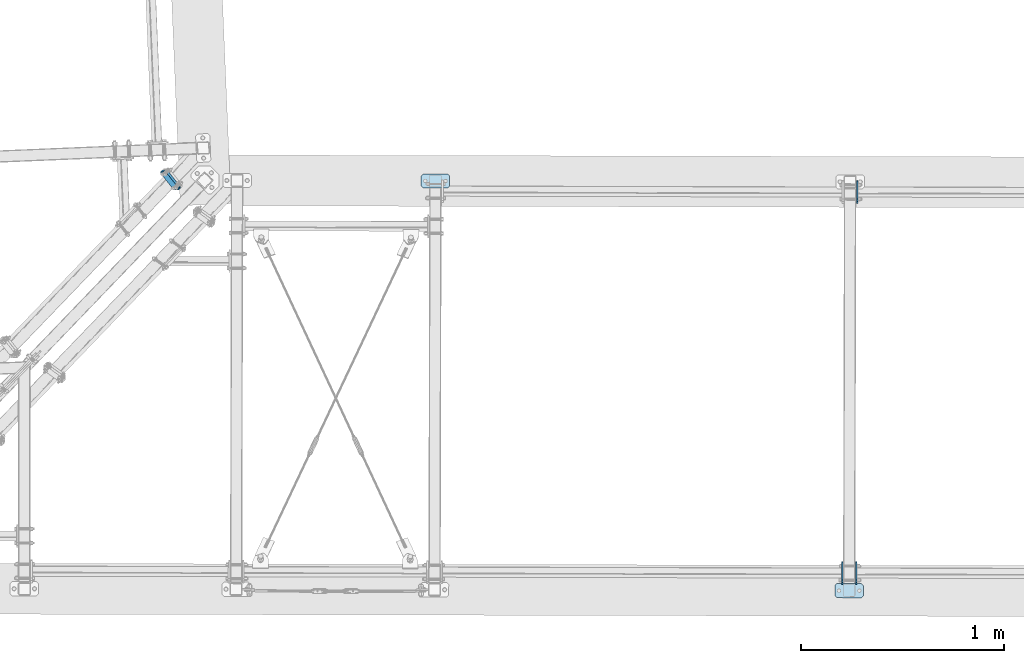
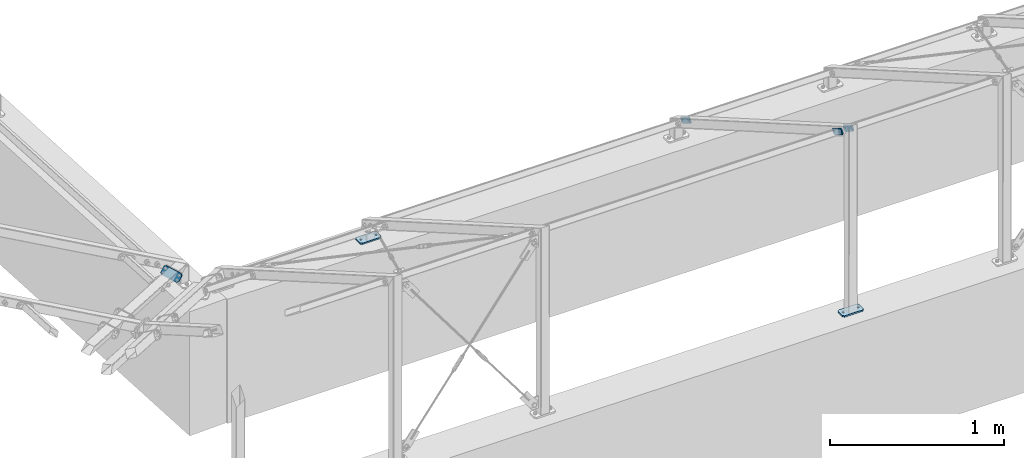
# One storey, part 32 of 288: 6 plates, 38 openings.
"""IFC2X3 building model written with IfcOpenShell, lengths in millimetres."""

from ifc_helpers import new_model, entity, si_unit, converted_unit, point, frame, frame_2d, origin, origin_with_axes, origin_2d_with_axis, place, context, project, spatial, polyline, circle_curve, line_curve, trimmed, segment, composite_curve, circle, outline, extrude, material, layer, layer_set, element, save


model = new_model("IFC2X3")

# Units and contexts
model_context = context("Model", 3, precision=1e-09, world=origin_with_axes())
ifc_project = project(units=[si_unit("LENGTHUNIT", "METRE", prefix="MILLI"), si_unit("AREAUNIT", "SQUARE_METRE"), si_unit("VOLUMEUNIT", "CUBIC_METRE"), converted_unit("PLANEANGLEUNIT", "DEGREE", entity("IfcPlaneAngleMeasure", 0.01745329), si_unit("PLANEANGLEUNIT", "RADIAN"), dimensions=[0, 0, 0, 0, 0, 0, 0])], contexts=[model_context])

# Site, building, storey
site_placement = place(None, origin_with_axes())
site = spatial("IfcSite", under=ifc_project, at=site_placement, Name="Remont ?wietlik?w nad MC w NCPP w Opolu", CompositionType="ELEMENT")
building_placement = place(site_placement, origin_with_axes())
building = spatial("IfcBuilding", under=site, at=building_placement, Name="Konstrukcja 1", CompositionType="ELEMENT")
storey_placement = place(building_placement, origin_with_axes())
storey = spatial("IfcBuildingStorey", under=building, at=storey_placement, Name="Default Storey", CompositionType="ELEMENT", Elevation=0.0)

# Plate, openings
ifc_material = material(Name="S235")
ifc_layer_1 = layer(ifc_material, 8.0)
ifc_layer_set_1 = layer_set([ifc_layer_1], Name="S235")
plate_1_placement = place(None, frame((5016.422168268, -111.641533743, 1232.672531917), z_axis=(0.999997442, -0.002261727, -1.05e-07), x_axis=(0.00195866, 0.866023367, -0.499999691)))
plate_1 = element("IfcPlate", 1, at=plate_1_placement, inside=storey, material=ifc_layer_set_1, Name="-", ObjectType="-", context=model_context, shape_type="SweptSolid", body=[
    extrude(outline(polyline([(0.0, 0.0), (120.0, 0.0), (120.0, 40.0), (0.0, 40.0), (0.0, 0.0)])), origin_with_axes(), (0.0, 0.0, -1.0), 8.0),
])
opening_1_placement = place(plate_1_placement, frame((0.0, 40.0, 0.01), z_axis=(0.0, 0.0, 1.0), x_axis=(0.0, -1.0, 0.0)))
element("IfcOpeningElement", 2, at=opening_1_placement, cuts=plate_1, ObjectType="Opening", context=model_context, shape_type="SweptSolid", body=[
    extrude(outline(composite_curve([segment(trimmed(line_curve((0.0, 0.0), (1.0, 0.0), 10.0), [point((0.0, 0.0))], [point((10.0, 0.0))], True, "CARTESIAN"), True, "CONTINUOUS"), segment(trimmed(circle_curve(frame_2d((10.0, 10.0), x_axis=(-1.0, 0.0)), 10.0), [point((10.0, 0.0))], [point((0.0, 10.0))], False, "CARTESIAN"), True, "CONTINUOUS"), segment(trimmed(line_curve((0.0, 10.0), (0.0, -1.0), 10.0), [point((0.0, 10.0))], [point((0.0, 0.0))], True, "CARTESIAN"), True, "CONTINUOUS")], self_intersect=False)), origin(), (0.0, 0.0, -1.0), 8.02),
])
opening_2_placement = place(plate_1_placement, frame((0.0, 0.0, 0.01), z_axis=(0.0, 0.0, 1.0), x_axis=(1.0, 0.0, 0.0)))
element("IfcOpeningElement", 3, at=opening_2_placement, cuts=plate_1, ObjectType="Opening", context=model_context, shape_type="SweptSolid", body=[
    extrude(outline(composite_curve([segment(trimmed(line_curve((0.0, 0.0), (1.0, 0.0), 10.0), [point((0.0, 0.0))], [point((10.0, 0.0))], True, "CARTESIAN"), True, "CONTINUOUS"), segment(trimmed(circle_curve(frame_2d((10.0, 10.0), x_axis=(-1.0, 0.0)), 10.0), [point((10.0, 0.0))], [point((0.0, 10.0))], False, "CARTESIAN"), True, "CONTINUOUS"), segment(trimmed(line_curve((0.0, 10.0), (0.0, -1.0), 10.0), [point((0.0, 10.0))], [point((0.0, 0.0))], True, "CARTESIAN"), True, "CONTINUOUS")], self_intersect=False)), origin(), (0.0, 0.0, -1.0), 8.02),
])
opening_3_placement = place(plate_1_placement, frame((120.0, 40.0, 0.01), z_axis=(0.0, 0.0, 1.0), x_axis=(-1.0, 0.0, 0.0)))
element("IfcOpeningElement", 4, at=opening_3_placement, cuts=plate_1, ObjectType="Opening", context=model_context, shape_type="SweptSolid", body=[
    extrude(outline(composite_curve([segment(trimmed(line_curve((0.0, 0.0), (1.0, 0.0), 10.0), [point((0.0, 0.0))], [point((10.0, 0.0))], True, "CARTESIAN"), True, "CONTINUOUS"), segment(trimmed(circle_curve(frame_2d((10.0, 10.0), x_axis=(-1.0, 0.0)), 10.0), [point((10.0, 0.0))], [point((0.0, 10.0))], False, "CARTESIAN"), True, "CONTINUOUS"), segment(trimmed(line_curve((0.0, 10.0), (0.0, -1.0), 10.0), [point((0.0, 10.0))], [point((0.0, 0.0))], True, "CARTESIAN"), True, "CONTINUOUS")], self_intersect=False)), origin(), (0.0, 0.0, -1.0), 8.02),
])
opening_4_placement = place(plate_1_placement, frame((120.0, 0.0, 0.01), z_axis=(0.0, 0.0, 1.0), x_axis=(0.0, 1.0, 0.0)))
element("IfcOpeningElement", 5, at=opening_4_placement, cuts=plate_1, ObjectType="Opening", context=model_context, shape_type="SweptSolid", body=[
    extrude(outline(composite_curve([segment(trimmed(line_curve((0.0, 0.0), (1.0, 0.0), 10.0), [point((0.0, 0.0))], [point((10.0, 0.0))], True, "CARTESIAN"), True, "CONTINUOUS"), segment(trimmed(circle_curve(frame_2d((10.0, 10.0), x_axis=(-1.0, 0.0)), 10.0), [point((10.0, 0.0))], [point((0.0, 10.0))], False, "CARTESIAN"), True, "CONTINUOUS"), segment(trimmed(line_curve((0.0, 10.0), (0.0, -1.0), 10.0), [point((0.0, 10.0))], [point((0.0, 0.0))], True, "CARTESIAN"), True, "CONTINUOUS")], self_intersect=False)), origin(), (0.0, 0.0, -1.0), 8.02),
])
opening_5_placement = place(plate_1_placement, frame((60.0, 20.000292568, 0.5), z_axis=(0.0, 0.0, -1.0), x_axis=(-1.0, 0.0, 0.0)))
element("IfcOpeningElement", 6, at=opening_5_placement, cuts=plate_1, ObjectType="Opening", context=model_context, shape_type="SweptSolid", body=[
    extrude(circle(Radius=7.001, at=frame_2d((40.0, 0.0), x_axis=(1.0, 0.0))), origin(), (0.0, 0.0, 1.0), 9.0),
])
opening_6_placement = place(plate_1_placement, frame((60.0, 20.000292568, 0.5), z_axis=(0.0, 0.0, -1.0), x_axis=(-1.0, 0.0, 0.0)))
element("IfcOpeningElement", 7, at=opening_6_placement, cuts=plate_1, ObjectType="Opening", context=model_context, shape_type="SweptSolid", body=[
    extrude(circle(Radius=7.001, at=frame_2d((-40.0, 0.0), x_axis=(1.0, 0.0))), origin(), (0.0, 0.0, 1.0), 9.0),
])

plate_2_placement = place(None, frame((4946.422197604, -111.48306626, 1232.672792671), z_axis=(0.999997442, -0.002261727, -1.05e-07), x_axis=(0.00195866, 0.866023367, -0.499999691)))
plate_2 = element("IfcPlate", 8, at=plate_2_placement, inside=storey, material=ifc_layer_set_1, Name="-", ObjectType="-", context=model_context, shape_type="SweptSolid", body=[
    extrude(outline(polyline([(0.0, 0.0), (120.0, 0.0), (120.0, 40.0), (0.0, 40.0), (0.0, 0.0)])), origin_with_axes(), (0.0, 0.0, -1.0), 8.0),
])
opening_7_placement = place(plate_2_placement, frame((0.0, 40.0, 0.01), z_axis=(0.0, 0.0, 1.0), x_axis=(0.0, -1.0, 0.0)))
element("IfcOpeningElement", 9, at=opening_7_placement, cuts=plate_2, ObjectType="Opening", context=model_context, shape_type="SweptSolid", body=[
    extrude(outline(composite_curve([segment(trimmed(line_curve((0.0, 0.0), (1.0, 0.0), 10.0), [point((0.0, 0.0))], [point((10.0, 0.0))], True, "CARTESIAN"), True, "CONTINUOUS"), segment(trimmed(circle_curve(frame_2d((10.0, 10.0), x_axis=(-1.0, 0.0)), 10.0), [point((10.0, 0.0))], [point((0.0, 10.0))], False, "CARTESIAN"), True, "CONTINUOUS"), segment(trimmed(line_curve((0.0, 10.0), (0.0, -1.0), 10.0), [point((0.0, 10.0))], [point((0.0, 0.0))], True, "CARTESIAN"), True, "CONTINUOUS")], self_intersect=False)), origin(), (0.0, 0.0, -1.0), 8.02),
])
opening_8_placement = place(plate_2_placement, frame((0.0, 0.0, 0.01), z_axis=(0.0, 0.0, 1.0), x_axis=(1.0, 0.0, 0.0)))
element("IfcOpeningElement", 10, at=opening_8_placement, cuts=plate_2, ObjectType="Opening", context=model_context, shape_type="SweptSolid", body=[
    extrude(outline(composite_curve([segment(trimmed(line_curve((0.0, 0.0), (1.0, 0.0), 10.0), [point((0.0, 0.0))], [point((10.0, 0.0))], True, "CARTESIAN"), True, "CONTINUOUS"), segment(trimmed(circle_curve(frame_2d((10.0, 10.0), x_axis=(-1.0, 0.0)), 10.0), [point((10.0, 0.0))], [point((0.0, 10.0))], False, "CARTESIAN"), True, "CONTINUOUS"), segment(trimmed(line_curve((0.0, 10.0), (0.0, -1.0), 10.0), [point((0.0, 10.0))], [point((0.0, 0.0))], True, "CARTESIAN"), True, "CONTINUOUS")], self_intersect=False)), origin(), (0.0, 0.0, -1.0), 8.02),
])
opening_9_placement = place(plate_2_placement, frame((120.0, 40.0, 0.01), z_axis=(0.0, 0.0, 1.0), x_axis=(-1.0, 0.0, 0.0)))
element("IfcOpeningElement", 11, at=opening_9_placement, cuts=plate_2, ObjectType="Opening", context=model_context, shape_type="SweptSolid", body=[
    extrude(outline(composite_curve([segment(trimmed(line_curve((0.0, 0.0), (1.0, 0.0), 10.0), [point((0.0, 0.0))], [point((10.0, 0.0))], True, "CARTESIAN"), True, "CONTINUOUS"), segment(trimmed(circle_curve(frame_2d((10.0, 10.0), x_axis=(-1.0, 0.0)), 10.0), [point((10.0, 0.0))], [point((0.0, 10.0))], False, "CARTESIAN"), True, "CONTINUOUS"), segment(trimmed(line_curve((0.0, 10.0), (0.0, -1.0), 10.0), [point((0.0, 10.0))], [point((0.0, 0.0))], True, "CARTESIAN"), True, "CONTINUOUS")], self_intersect=False)), origin(), (0.0, 0.0, -1.0), 8.02),
])
opening_10_placement = place(plate_2_placement, frame((120.0, 0.0, 0.01), z_axis=(0.0, 0.0, 1.0), x_axis=(0.0, 1.0, 0.0)))
element("IfcOpeningElement", 12, at=opening_10_placement, cuts=plate_2, ObjectType="Opening", context=model_context, shape_type="SweptSolid", body=[
    extrude(outline(composite_curve([segment(trimmed(line_curve((0.0, 0.0), (1.0, 0.0), 10.0), [point((0.0, 0.0))], [point((10.0, 0.0))], True, "CARTESIAN"), True, "CONTINUOUS"), segment(trimmed(circle_curve(frame_2d((10.0, 10.0), x_axis=(-1.0, 0.0)), 10.0), [point((10.0, 0.0))], [point((0.0, 10.0))], False, "CARTESIAN"), True, "CONTINUOUS"), segment(trimmed(line_curve((0.0, 10.0), (0.0, -1.0), 10.0), [point((0.0, 10.0))], [point((0.0, 0.0))], True, "CARTESIAN"), True, "CONTINUOUS")], self_intersect=False)), origin(), (0.0, 0.0, -1.0), 8.02),
])
opening_11_placement = place(plate_2_placement, frame((60.0, 20.0, 0.5), z_axis=(0.0, 0.0, -1.0), x_axis=(-1.0, 0.0, 0.0)))
element("IfcOpeningElement", 13, at=opening_11_placement, cuts=plate_2, ObjectType="Opening", context=model_context, shape_type="SweptSolid", body=[
    extrude(circle(Radius=7.001, at=frame_2d((40.0, 0.0), x_axis=(1.0, 0.0))), origin(), (0.0, 0.0, 1.0), 9.0),
])
opening_12_placement = place(plate_2_placement, frame((60.0, 20.0, 0.5), z_axis=(0.0, 0.0, -1.0), x_axis=(-1.0, 0.0, 0.0)))
element("IfcOpeningElement", 14, at=opening_12_placement, cuts=plate_2, ObjectType="Opening", context=model_context, shape_type="SweptSolid", body=[
    extrude(circle(Radius=7.001, at=frame_2d((-40.0, 0.0), x_axis=(1.0, 0.0))), origin(), (0.0, 0.0, 1.0), 9.0),
])

plate_3_placement = place(None, frame((5020.659358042, 1761.83560286, 151.018126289), z_axis=(0.999997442, -0.002261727, -1.05e-07), x_axis=(0.00195866, 0.866023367, -0.499999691)))
plate_3 = element("IfcPlate", 15, at=plate_3_placement, inside=storey, material=ifc_layer_set_1, Name="-", ObjectType="-", context=model_context, shape_type="SweptSolid", body=[
    extrude(outline(polyline([(0.0, 0.0), (120.0, 0.0), (120.0, 40.0), (0.0, 40.0), (0.0, 0.0)])), origin_with_axes(), (0.0, 0.0, -1.0), 8.0),
])
opening_13_placement = place(plate_3_placement, frame((0.0, 40.0, 0.01), z_axis=(0.0, 0.0, 1.0), x_axis=(0.0, -1.0, 0.0)))
element("IfcOpeningElement", 16, at=opening_13_placement, cuts=plate_3, ObjectType="Opening", context=model_context, shape_type="SweptSolid", body=[
    extrude(outline(composite_curve([segment(trimmed(line_curve((0.0, 0.0), (1.0, 0.0), 10.0), [point((0.0, 0.0))], [point((10.0, 0.0))], True, "CARTESIAN"), True, "CONTINUOUS"), segment(trimmed(circle_curve(frame_2d((10.0, 10.0), x_axis=(-1.0, 0.0)), 10.0), [point((10.0, 0.0))], [point((0.0, 10.0))], False, "CARTESIAN"), True, "CONTINUOUS"), segment(trimmed(line_curve((0.0, 10.0), (0.0, -1.0), 10.0), [point((0.0, 10.0))], [point((0.0, 0.0))], True, "CARTESIAN"), True, "CONTINUOUS")], self_intersect=False)), origin(), (0.0, 0.0, -1.0), 8.02),
])
opening_14_placement = place(plate_3_placement, frame((0.0, 0.0, 0.01), z_axis=(0.0, 0.0, 1.0), x_axis=(1.0, 0.0, 0.0)))
element("IfcOpeningElement", 17, at=opening_14_placement, cuts=plate_3, ObjectType="Opening", context=model_context, shape_type="SweptSolid", body=[
    extrude(outline(composite_curve([segment(trimmed(line_curve((0.0, 0.0), (1.0, 0.0), 10.0), [point((0.0, 0.0))], [point((10.0, 0.0))], True, "CARTESIAN"), True, "CONTINUOUS"), segment(trimmed(circle_curve(frame_2d((10.0, 10.0), x_axis=(-1.0, 0.0)), 10.0), [point((10.0, 0.0))], [point((0.0, 10.0))], False, "CARTESIAN"), True, "CONTINUOUS"), segment(trimmed(line_curve((0.0, 10.0), (0.0, -1.0), 10.0), [point((0.0, 10.0))], [point((0.0, 0.0))], True, "CARTESIAN"), True, "CONTINUOUS")], self_intersect=False)), origin(), (0.0, 0.0, -1.0), 8.02),
])
opening_15_placement = place(plate_3_placement, frame((120.0, 40.0, 0.01), z_axis=(0.0, 0.0, 1.0), x_axis=(-1.0, 0.0, 0.0)))
element("IfcOpeningElement", 18, at=opening_15_placement, cuts=plate_3, ObjectType="Opening", context=model_context, shape_type="SweptSolid", body=[
    extrude(outline(composite_curve([segment(trimmed(line_curve((0.0, 0.0), (1.0, 0.0), 10.0), [point((0.0, 0.0))], [point((10.0, 0.0))], True, "CARTESIAN"), True, "CONTINUOUS"), segment(trimmed(circle_curve(frame_2d((10.0, 10.0), x_axis=(-1.0, 0.0)), 10.0), [point((10.0, 0.0))], [point((0.0, 10.0))], False, "CARTESIAN"), True, "CONTINUOUS"), segment(trimmed(line_curve((0.0, 10.0), (0.0, -1.0), 10.0), [point((0.0, 10.0))], [point((0.0, 0.0))], True, "CARTESIAN"), True, "CONTINUOUS")], self_intersect=False)), origin(), (0.0, 0.0, -1.0), 8.02),
])
opening_16_placement = place(plate_3_placement, frame((120.0, 0.0, 0.01), z_axis=(0.0, 0.0, 1.0), x_axis=(0.0, 1.0, 0.0)))
element("IfcOpeningElement", 19, at=opening_16_placement, cuts=plate_3, ObjectType="Opening", context=model_context, shape_type="SweptSolid", body=[
    extrude(outline(composite_curve([segment(trimmed(line_curve((0.0, 0.0), (1.0, 0.0), 10.0), [point((0.0, 0.0))], [point((10.0, 0.0))], True, "CARTESIAN"), True, "CONTINUOUS"), segment(trimmed(circle_curve(frame_2d((10.0, 10.0), x_axis=(-1.0, 0.0)), 10.0), [point((10.0, 0.0))], [point((0.0, 10.0))], False, "CARTESIAN"), True, "CONTINUOUS"), segment(trimmed(line_curve((0.0, 10.0), (0.0, -1.0), 10.0), [point((0.0, 10.0))], [point((0.0, 0.0))], True, "CARTESIAN"), True, "CONTINUOUS")], self_intersect=False)), origin(), (0.0, 0.0, -1.0), 8.02),
])
opening_17_placement = place(plate_3_placement, frame((60.0, 20.000292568, 0.5), z_axis=(0.0, 0.0, -1.0), x_axis=(-1.0, 0.0, 0.0)))
element("IfcOpeningElement", 20, at=opening_17_placement, cuts=plate_3, ObjectType="Opening", context=model_context, shape_type="SweptSolid", body=[
    extrude(circle(Radius=7.001, at=frame_2d((40.0, 0.0), x_axis=(1.0, 0.0))), origin(), (0.0, 0.0, 1.0), 9.0),
])
opening_18_placement = place(plate_3_placement, frame((60.0, 20.000292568, 0.5), z_axis=(0.0, 0.0, -1.0), x_axis=(-1.0, 0.0, 0.0)))
element("IfcOpeningElement", 21, at=opening_18_placement, cuts=plate_3, ObjectType="Opening", context=model_context, shape_type="SweptSolid", body=[
    extrude(circle(Radius=7.001, at=frame_2d((-40.0, 0.0), x_axis=(1.0, 0.0))), origin(), (0.0, 0.0, 1.0), 9.0),
])

ifc_layer_2 = layer(ifc_material, 10.0)
ifc_layer_set_2 = layer_set([ifc_layer_2], Name="S235")
plate_4_placement = place(None, frame((3013.082585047, 1912.967750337, 10.000000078), z_axis=(0.0, 0.0, -1.0), x_axis=(-0.002261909, -0.999997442, 0.0)))
plate_4 = element("IfcPlate", 22, at=plate_4_placement, inside=storey, material=ifc_layer_set_2, Name="Baseplate", ObjectType="Baseplate", context=model_context, shape_type="SweptSolid", body=[
    extrude(outline(polyline([(0.0, 0.0), (70.0, 0.0), (70.0, 140.0), (0.0, 140.0), (0.0, 0.0)])), origin_with_axes(), (0.0, 0.0, 1.0), 10.0),
])
opening_19_placement = place(plate_4_placement, frame((0.0, 0.0, -0.01), z_axis=(0.0, 0.0, 1.0), x_axis=(1.0, 0.0, 0.0)))
element("IfcOpeningElement", 23, at=opening_19_placement, cuts=plate_4, ObjectType="Opening", context=model_context, shape_type="SweptSolid", body=[
    extrude(outline(composite_curve([segment(trimmed(line_curve((0.0, 140.0), (0.0, -1.0), 10.0), [point((0.0, 140.0))], [point((0.0, 130.0))], True, "CARTESIAN"), True, "CONTINUOUS"), segment(trimmed(circle_curve(frame_2d((10.0, 130.0), x_axis=(-1.0, 0.0)), 10.0), [point((0.0, 130.0))], [point((10.0, 140.0))], False, "CARTESIAN"), True, "CONTINUOUS"), segment(trimmed(line_curve((10.0, 140.0), (-1.0, 0.0), 10.0), [point((10.0, 140.0))], [point((0.0, 140.0))], True, "CARTESIAN"), True, "CONTINUOUS")], self_intersect=False)), origin(), (0.0, 0.0, 1.0), 10.02),
])
opening_20_placement = place(plate_4_placement, frame((0.0, 0.0, -0.01), z_axis=(0.0, 0.0, 1.0), x_axis=(1.0, 0.0, 0.0)))
element("IfcOpeningElement", 24, at=opening_20_placement, cuts=plate_4, ObjectType="Opening", context=model_context, shape_type="SweptSolid", body=[
    extrude(outline(composite_curve([segment(trimmed(line_curve((70.0, 140.0), (-1.0, 0.0), 10.0), [point((70.0, 140.0))], [point((60.0, 140.0))], True, "CARTESIAN"), True, "CONTINUOUS"), segment(trimmed(circle_curve(frame_2d((60.0, 130.0), x_axis=(-1.0, 0.0)), 10.0), [point((60.0, 140.0))], [point((70.0, 130.0))], False, "CARTESIAN"), True, "CONTINUOUS"), segment(trimmed(line_curve((70.0, 130.0), (0.0, 1.0), 10.0), [point((70.0, 130.0))], [point((70.0, 140.0))], True, "CARTESIAN"), True, "CONTINUOUS")], self_intersect=False)), origin(), (0.0, 0.0, 1.0), 10.02),
])
opening_21_placement = place(plate_4_placement, frame((0.0, 0.0, -0.01), z_axis=(0.0, 0.0, 1.0), x_axis=(1.0, 0.0, 0.0)))
element("IfcOpeningElement", 25, at=opening_21_placement, cuts=plate_4, ObjectType="Opening", context=model_context, shape_type="SweptSolid", body=[
    extrude(outline(composite_curve([segment(trimmed(line_curve((0.0, 0.0), (1.0, 0.0), 10.0), [point((0.0, 0.0))], [point((10.0, 0.0))], True, "CARTESIAN"), True, "CONTINUOUS"), segment(trimmed(circle_curve(frame_2d((10.0, 10.0), x_axis=(-1.0, 0.0)), 10.0), [point((10.0, 0.0))], [point((0.0, 10.0))], False, "CARTESIAN"), True, "CONTINUOUS"), segment(trimmed(line_curve((0.0, 10.0), (0.0, -1.0), 10.0), [point((0.0, 10.0))], [point((0.0, 0.0))], True, "CARTESIAN"), True, "CONTINUOUS")], self_intersect=False)), origin(), (0.0, 0.0, 1.0), 10.02),
])
opening_22_placement = place(plate_4_placement, frame((0.0, 0.0, -0.01), z_axis=(0.0, 0.0, 1.0), x_axis=(1.0, 0.0, 0.0)))
element("IfcOpeningElement", 26, at=opening_22_placement, cuts=plate_4, ObjectType="Opening", context=model_context, shape_type="SweptSolid", body=[
    extrude(outline(composite_curve([segment(trimmed(line_curve((70.0, 0.0), (0.0, 1.0), 10.0), [point((70.0, 0.0))], [point((70.0, 10.0))], True, "CARTESIAN"), True, "CONTINUOUS"), segment(trimmed(circle_curve(frame_2d((60.0, 10.0), x_axis=(-1.0, 0.0)), 10.0), [point((70.0, 10.0))], [point((60.0, 0.0))], False, "CARTESIAN"), True, "CONTINUOUS"), segment(trimmed(line_curve((60.0, 0.0), (1.0, 0.0), 10.0), [point((60.0, 0.0))], [point((70.0, 0.0))], True, "CARTESIAN"), True, "CONTINUOUS")], self_intersect=False)), origin(), (0.0, 0.0, 1.0), 10.02),
])
opening_23_placement = place(plate_4_placement, frame((35.0, 120.0, 10.5), z_axis=(0.0, 0.0, -1.0), x_axis=(1.0, 0.0, 0.0)))
element("IfcOpeningElement", 27, at=opening_23_placement, cuts=plate_4, ObjectType="Opening", context=model_context, shape_type="SweptSolid", body=[
    extrude(circle(Radius=6.001, at=origin_2d_with_axis()), origin(), (0.0, 0.0, 1.0), 11.0),
])
opening_24_placement = place(plate_4_placement, frame((35.0, 20.0, 10.5), z_axis=(0.0, 0.0, -1.0), x_axis=(1.0, 0.0, 0.0)))
element("IfcOpeningElement", 28, at=opening_24_placement, cuts=plate_4, ObjectType="Opening", context=model_context, shape_type="SweptSolid", body=[
    extrude(circle(Radius=6.001, at=origin_2d_with_axis()), origin(), (0.0, 0.0, 1.0), 11.0),
])

ifc_layer_3 = layer(ifc_material, 12.0)
ifc_layer_set_3 = layer_set([ifc_layer_3], Name="S235")
plate_5_placement = place(None, frame((1586.557170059, 1922.917356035, 201.677683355), z_axis=(0.639589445, 0.665373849, -0.384971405), x_axis=(0.499581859, 0.020836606, 0.866016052)))
plate_5 = element("IfcPlate", 29, at=plate_5_placement, inside=storey, material=ifc_layer_set_3, Name="Endplate#2", ObjectType="Endplate#2", context=model_context, shape_type="SweptSolid", body=[
    extrude(outline(polyline([(0.0, 0.0), (60.0, 0.0), (60.0, 120.0), (0.0, 120.0), (0.0, 0.0)])), origin_with_axes(), (0.0, 0.0, 1.0), 12.0),
])
opening_25_placement = place(plate_5_placement, frame((0.0, 0.0, -0.01), z_axis=(0.0, 0.0, 1.0), x_axis=(1.0, 0.0, 0.0)))
element("IfcOpeningElement", 30, at=opening_25_placement, cuts=plate_5, ObjectType="Opening", context=model_context, shape_type="SweptSolid", body=[
    extrude(outline(composite_curve([segment(trimmed(line_curve((60.0, 120.0), (-1.0, 0.0), 10.0), [point((60.0, 120.0))], [point((50.0, 120.0))], True, "CARTESIAN"), True, "CONTINUOUS"), segment(trimmed(circle_curve(frame_2d((50.0, 110.0), x_axis=(-1.0, 0.0)), 10.0), [point((50.0, 120.0))], [point((60.0, 110.0))], False, "CARTESIAN"), True, "CONTINUOUS"), segment(trimmed(line_curve((60.0, 110.0), (0.0, 1.0), 10.0), [point((60.0, 110.0))], [point((60.0, 120.0))], True, "CARTESIAN"), True, "CONTINUOUS")], self_intersect=False)), origin(), (0.0, 0.0, 1.0), 12.02),
])
opening_26_placement = place(plate_5_placement, frame((0.0, 0.0, -0.01), z_axis=(0.0, 0.0, 1.0), x_axis=(1.0, 0.0, 0.0)))
element("IfcOpeningElement", 31, at=opening_26_placement, cuts=plate_5, ObjectType="Opening", context=model_context, shape_type="SweptSolid", body=[
    extrude(outline(composite_curve([segment(trimmed(line_curve((0.0, 120.0), (0.0, -1.0), 10.0), [point((0.0, 120.0))], [point((0.0, 110.0))], True, "CARTESIAN"), True, "CONTINUOUS"), segment(trimmed(circle_curve(frame_2d((10.0, 110.0), x_axis=(-1.0, 0.0)), 10.0), [point((0.0, 110.0))], [point((10.0, 120.0))], False, "CARTESIAN"), True, "CONTINUOUS"), segment(trimmed(line_curve((10.0, 120.0), (-1.0, 0.0), 10.0), [point((10.0, 120.0))], [point((0.0, 120.0))], True, "CARTESIAN"), True, "CONTINUOUS")], self_intersect=False)), origin(), (0.0, 0.0, 1.0), 12.02),
])
opening_27_placement = place(plate_5_placement, frame((0.0, 0.0, -0.01), z_axis=(0.0, 0.0, 1.0), x_axis=(1.0, 0.0, 0.0)))
element("IfcOpeningElement", 32, at=opening_27_placement, cuts=plate_5, ObjectType="Opening", context=model_context, shape_type="SweptSolid", body=[
    extrude(outline(composite_curve([segment(trimmed(line_curve((0.0, 0.0), (1.0, 0.0), 10.0), [point((0.0, 0.0))], [point((10.0, 0.0))], True, "CARTESIAN"), True, "CONTINUOUS"), segment(trimmed(circle_curve(frame_2d((10.0, 10.0), x_axis=(-1.0, 0.0)), 10.0), [point((10.0, 0.0))], [point((0.0, 10.0))], False, "CARTESIAN"), True, "CONTINUOUS"), segment(trimmed(line_curve((0.0, 10.0), (0.0, -1.0), 10.0), [point((0.0, 10.0))], [point((0.0, 0.0))], True, "CARTESIAN"), True, "CONTINUOUS")], self_intersect=False)), origin(), (0.0, 0.0, 1.0), 12.02),
])
opening_28_placement = place(plate_5_placement, frame((45.0, 60.0, 12.5), z_axis=(0.0, 0.0, -1.0), x_axis=(1.0, 0.0, 0.0)))
element("IfcOpeningElement", 33, at=opening_28_placement, cuts=plate_5, ObjectType="Opening", context=model_context, shape_type="SweptSolid", body=[
    extrude(circle(Radius=6.001, at=frame_2d((0.0, 45.0), x_axis=(1.0, 0.0))), origin(), (0.0, 0.0, 1.0), 13.0),
])
opening_29_placement = place(plate_5_placement, frame((45.0, 60.0, 12.5), z_axis=(0.0, 0.0, -1.0), x_axis=(1.0, 0.0, 0.0)))
element("IfcOpeningElement", 34, at=opening_29_placement, cuts=plate_5, ObjectType="Opening", context=model_context, shape_type="SweptSolid", body=[
    extrude(circle(Radius=6.001, at=frame_2d((0.0, -45.0), x_axis=(1.0, 0.0))), origin(), (0.0, 0.0, 1.0), 13.0),
])
opening_30_placement = place(plate_5_placement, frame((15.0, 60.0, 12.5), z_axis=(0.0, 0.0, -1.0), x_axis=(1.0, 0.0, 0.0)))
element("IfcOpeningElement", 35, at=opening_30_placement, cuts=plate_5, ObjectType="Opening", context=model_context, shape_type="SweptSolid", body=[
    extrude(circle(Radius=6.001, at=frame_2d((0.0, 45.0), x_axis=(1.0, 0.0))), origin(), (0.0, 0.0, 1.0), 13.0),
])
opening_31_placement = place(plate_5_placement, frame((15.0, 60.0, 12.5), z_axis=(0.0, 0.0, -1.0), x_axis=(1.0, 0.0, 0.0)))
element("IfcOpeningElement", 36, at=opening_31_placement, cuts=plate_5, ObjectType="Opening", context=model_context, shape_type="SweptSolid", body=[
    extrude(circle(Radius=6.001, at=frame_2d((0.0, -45.0), x_axis=(1.0, 0.0))), origin(), (0.0, 0.0, 1.0), 13.0),
])
opening_32_placement = place(plate_5_placement, frame((0.0, 0.0, -0.01), z_axis=(0.0, 0.0, 1.0), x_axis=(1.0, 0.0, 0.0)))
element("IfcOpeningElement", 37, at=opening_32_placement, cuts=plate_5, ObjectType="Opening", context=model_context, shape_type="SweptSolid", body=[
    extrude(outline(composite_curve([segment(trimmed(line_curve((60.0, 0.0), (0.0, 1.0), 10.0), [point((60.0, 0.0))], [point((60.0, 10.0))], True, "CARTESIAN"), True, "CONTINUOUS"), segment(trimmed(circle_curve(frame_2d((50.0, 10.0), x_axis=(-1.0, 0.0)), 10.0), [point((60.0, 10.0))], [point((50.0, 0.0))], False, "CARTESIAN"), True, "CONTINUOUS"), segment(trimmed(line_curve((50.0, 0.0), (1.0, 0.0), 10.0), [point((50.0, 0.0))], [point((60.0, 0.0))], True, "CARTESIAN"), True, "CONTINUOUS")], self_intersect=False)), origin(), (0.0, 0.0, 1.0), 12.02),
])

plate_6_placement = place(None, frame((4907.28745129, -171.047640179, 10.00000014), z_axis=(0.0, 0.0, -1.0), x_axis=(0.002261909, 0.999997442, 0.0)))
plate_6 = element("IfcPlate", 38, at=plate_6_placement, inside=storey, material=ifc_layer_set_2, Name="Baseplate", ObjectType="Baseplate", context=model_context, shape_type="SweptSolid", body=[
    extrude(outline(polyline([(0.0, 0.0), (70.0, 0.0), (70.0, 140.0), (0.0, 140.0), (0.0, 0.0)])), origin_with_axes(), (0.0, 0.0, 1.0), 10.0),
])
opening_33_placement = place(plate_6_placement, frame((0.0, 0.0, -0.01), z_axis=(0.0, 0.0, 1.0), x_axis=(1.0, 0.0, 0.0)))
element("IfcOpeningElement", 39, at=opening_33_placement, cuts=plate_6, ObjectType="Opening", context=model_context, shape_type="SweptSolid", body=[
    extrude(outline(composite_curve([segment(trimmed(line_curve((70.0, 0.0), (0.0, 1.0), 10.0), [point((70.0, 0.0))], [point((70.0, 10.0))], True, "CARTESIAN"), True, "CONTINUOUS"), segment(trimmed(circle_curve(frame_2d((60.0, 10.0), x_axis=(-1.0, 0.0)), 10.0), [point((70.0, 10.0))], [point((60.0, 0.0))], False, "CARTESIAN"), True, "CONTINUOUS"), segment(trimmed(line_curve((60.0, 0.0), (1.0, 0.0), 10.0), [point((60.0, 0.0))], [point((70.0, 0.0))], True, "CARTESIAN"), True, "CONTINUOUS")], self_intersect=False)), origin(), (0.0, 0.0, 1.0), 10.02),
])
opening_34_placement = place(plate_6_placement, frame((0.0, 0.0, -0.01), z_axis=(0.0, 0.0, 1.0), x_axis=(1.0, 0.0, 0.0)))
element("IfcOpeningElement", 40, at=opening_34_placement, cuts=plate_6, ObjectType="Opening", context=model_context, shape_type="SweptSolid", body=[
    extrude(outline(composite_curve([segment(trimmed(line_curve((0.0, 0.0), (1.0, 0.0), 10.0), [point((0.0, 0.0))], [point((10.0, 0.0))], True, "CARTESIAN"), True, "CONTINUOUS"), segment(trimmed(circle_curve(frame_2d((10.0, 10.0), x_axis=(-1.0, 0.0)), 10.0), [point((10.0, 0.0))], [point((0.0, 10.0))], False, "CARTESIAN"), True, "CONTINUOUS"), segment(trimmed(line_curve((0.0, 10.0), (0.0, -1.0), 10.0), [point((0.0, 10.0))], [point((0.0, 0.0))], True, "CARTESIAN"), True, "CONTINUOUS")], self_intersect=False)), origin(), (0.0, 0.0, 1.0), 10.02),
])
opening_35_placement = place(plate_6_placement, frame((0.0, 0.0, -0.01), z_axis=(0.0, 0.0, 1.0), x_axis=(1.0, 0.0, 0.0)))
element("IfcOpeningElement", 41, at=opening_35_placement, cuts=plate_6, ObjectType="Opening", context=model_context, shape_type="SweptSolid", body=[
    extrude(outline(composite_curve([segment(trimmed(line_curve((70.0, 140.0), (-1.0, 0.0), 10.0), [point((70.0, 140.0))], [point((60.0, 140.0))], True, "CARTESIAN"), True, "CONTINUOUS"), segment(trimmed(circle_curve(frame_2d((60.0, 130.0), x_axis=(-1.0, 0.0)), 10.0), [point((60.0, 140.0))], [point((70.0, 130.0))], False, "CARTESIAN"), True, "CONTINUOUS"), segment(trimmed(line_curve((70.0, 130.0), (0.0, 1.0), 10.0), [point((70.0, 130.0))], [point((70.0, 140.0))], True, "CARTESIAN"), True, "CONTINUOUS")], self_intersect=False)), origin(), (0.0, 0.0, 1.0), 10.02),
])
opening_36_placement = place(plate_6_placement, frame((0.0, 0.0, -0.01), z_axis=(0.0, 0.0, 1.0), x_axis=(1.0, 0.0, 0.0)))
element("IfcOpeningElement", 42, at=opening_36_placement, cuts=plate_6, ObjectType="Opening", context=model_context, shape_type="SweptSolid", body=[
    extrude(outline(composite_curve([segment(trimmed(line_curve((0.0, 140.0), (0.0, -1.0), 10.0), [point((0.0, 140.0))], [point((0.0, 130.0))], True, "CARTESIAN"), True, "CONTINUOUS"), segment(trimmed(circle_curve(frame_2d((10.0, 130.0), x_axis=(-1.0, 0.0)), 10.0), [point((0.0, 130.0))], [point((10.0, 140.0))], False, "CARTESIAN"), True, "CONTINUOUS"), segment(trimmed(line_curve((10.0, 140.0), (-1.0, 0.0), 10.0), [point((10.0, 140.0))], [point((0.0, 140.0))], True, "CARTESIAN"), True, "CONTINUOUS")], self_intersect=False)), origin(), (0.0, 0.0, 1.0), 10.02),
])
opening_37_placement = place(plate_6_placement, frame((35.0, 120.0, 10.5), z_axis=(0.0, 0.0, -1.0), x_axis=(1.0, 0.0, 0.0)))
element("IfcOpeningElement", 43, at=opening_37_placement, cuts=plate_6, ObjectType="Opening", context=model_context, shape_type="SweptSolid", body=[
    extrude(circle(Radius=6.001, at=origin_2d_with_axis()), origin(), (0.0, 0.0, 1.0), 11.0),
])
opening_38_placement = place(plate_6_placement, frame((35.0, 20.0, 10.5), z_axis=(0.0, 0.0, -1.0), x_axis=(1.0, 0.0, 0.0)))
element("IfcOpeningElement", 44, at=opening_38_placement, cuts=plate_6, ObjectType="Opening", context=model_context, shape_type="SweptSolid", body=[
    extrude(circle(Radius=6.001, at=origin_2d_with_axis()), origin(), (0.0, 0.0, 1.0), 11.0),
])

save(model, "model.ifc")
